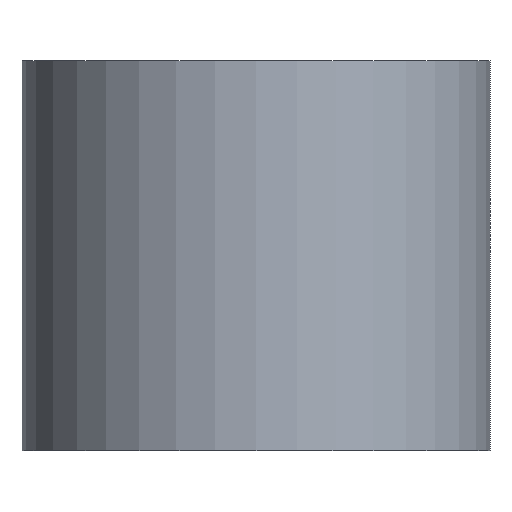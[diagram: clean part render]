
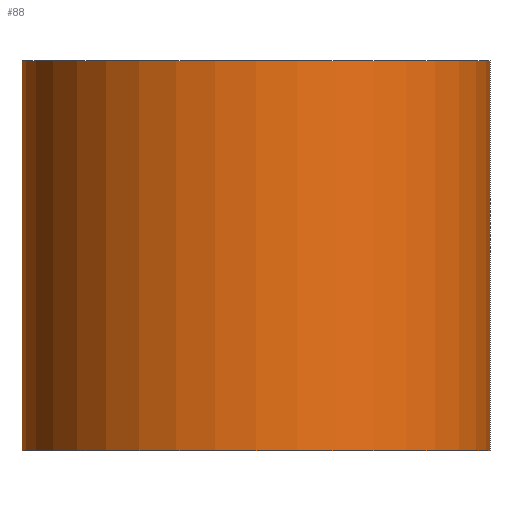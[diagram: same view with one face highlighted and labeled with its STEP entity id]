
A CAD part, front view. The second image highlights one B-rep face of the part: STEP entity #88.
In plain terms, the highlighted cylindrical face has radius 6 mm (diameter 12 mm), a partial arc.
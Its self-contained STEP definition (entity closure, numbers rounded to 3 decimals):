
#1 = AXIS2_PLACEMENT_3D ( 'NONE', #200, #84, #32 ) ;
#6 = CARTESIAN_POINT ( 'NONE',  ( 6., 0., 10. ) ) ;
#9 = VECTOR ( 'NONE', #123, 1000. ) ;
#11 = CYLINDRICAL_SURFACE ( 'NONE', #49, 6. ) ;
#15 = EDGE_CURVE ( 'NONE', #139, #67, #83, .T. ) ;
#19 = EDGE_CURVE ( 'NONE', #67, #31, #122, .T. ) ;
#31 = VERTEX_POINT ( 'NONE', #6 ) ;
#32 = DIRECTION ( 'NONE',  ( 1., 0., 0. ) ) ;
#37 = DIRECTION ( 'NONE',  ( 1., 0., 0. ) ) ;
#49 = AXIS2_PLACEMENT_3D ( 'NONE', #247, #224, #166 ) ;
#52 = CARTESIAN_POINT ( 'NONE',  ( 0., 0., 0. ) ) ;
#60 = VERTEX_POINT ( 'NONE', #69 ) ;
#67 = VERTEX_POINT ( 'NONE', #205 ) ;
#69 = CARTESIAN_POINT ( 'NONE',  ( 6., 0., 0. ) ) ;
#83 = LINE ( 'NONE', #216, #9 ) ;
#84 = DIRECTION ( 'NONE',  ( 0., 0., 1. ) ) ;
#88 = ADVANCED_FACE ( 'NONE', ( #204 ), #11, .T. ) ;
#103 = ORIENTED_EDGE ( 'NONE', *, *, #19, .F. ) ;
#122 = CIRCLE ( 'NONE', #1, 6. ) ;
#123 = DIRECTION ( 'NONE',  ( 0., 0., 1. ) ) ;
#128 = DIRECTION ( 'NONE',  ( 0., 0., 1. ) ) ;
#129 = LINE ( 'NONE', #190, #152 ) ;
#139 = VERTEX_POINT ( 'NONE', #206 ) ;
#152 = VECTOR ( 'NONE', #154, 1000. ) ;
#154 = DIRECTION ( 'NONE',  ( 0., 0., 1. ) ) ;
#166 = DIRECTION ( 'NONE',  ( 1., 0., 0. ) ) ;
#181 = EDGE_LOOP ( 'NONE', ( #214, #184, #197, #103 ) ) ;
#184 = ORIENTED_EDGE ( 'NONE', *, *, #195, .T. ) ;
#190 = CARTESIAN_POINT ( 'NONE',  ( 6., 0., 30. ) ) ;
#195 = EDGE_CURVE ( 'NONE', #139, #60, #203, .T. ) ;
#197 = ORIENTED_EDGE ( 'NONE', *, *, #213, .T. ) ;
#200 = CARTESIAN_POINT ( 'NONE',  ( 0., 0., 10. ) ) ;
#203 = CIRCLE ( 'NONE', #209, 6. ) ;
#204 = FACE_OUTER_BOUND ( 'NONE', #181, .T. ) ;
#205 = CARTESIAN_POINT ( 'NONE',  ( -6., 0., 10. ) ) ;
#206 = CARTESIAN_POINT ( 'NONE',  ( -6., 0., 0. ) ) ;
#209 = AXIS2_PLACEMENT_3D ( 'NONE', #52, #128, #37 ) ;
#213 = EDGE_CURVE ( 'NONE', #60, #31, #129, .T. ) ;
#214 = ORIENTED_EDGE ( 'NONE', *, *, #15, .F. ) ;
#216 = CARTESIAN_POINT ( 'NONE',  ( -6., 0., 30. ) ) ;
#224 = DIRECTION ( 'NONE',  ( 0., 0., 1. ) ) ;
#247 = CARTESIAN_POINT ( 'NONE',  ( 0., 0., 30. ) ) ;
